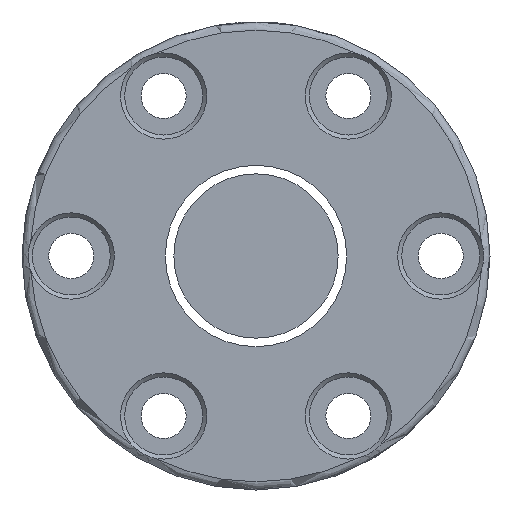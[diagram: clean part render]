
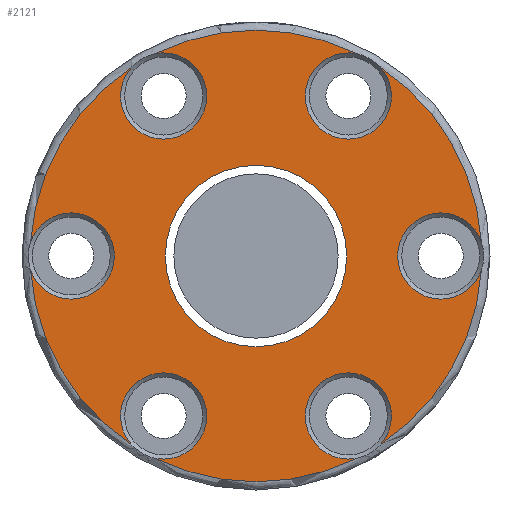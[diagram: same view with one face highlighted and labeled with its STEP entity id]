
A CAD part, left-side view. The second image highlights one B-rep face of the part: STEP entity #2121.
In plain terms, the highlighted planar face has unit normal (-1, 0, 0).
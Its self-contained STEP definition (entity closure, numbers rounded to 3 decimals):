
#8 = CIRCLE ( 'NONE', #173, 5.25 ) ;
#17 = CARTESIAN_POINT ( 'NONE',  ( -51., 0., 0. ) ) ;
#38 = ORIENTED_EDGE ( 'NONE', *, *, #2176, .T. ) ;
#51 = DIRECTION ( 'NONE',  ( 0., -1., 0. ) ) ;
#70 = DIRECTION ( 'NONE',  ( -1., 0., 0. ) ) ;
#71 = ORIENTED_EDGE ( 'NONE', *, *, #1202, .T. ) ;
#88 = CARTESIAN_POINT ( 'NONE',  ( -51., 11.25, -19.486 ) ) ;
#89 = ORIENTED_EDGE ( 'NONE', *, *, #2444, .T. ) ;
#91 = EDGE_CURVE ( 'NONE', #3050, #3050, #1687, .T. ) ;
#115 = VERTEX_POINT ( 'NONE', #3040 ) ;
#129 = ORIENTED_EDGE ( 'NONE', *, *, #91, .T. ) ;
#162 = AXIS2_PLACEMENT_3D ( 'NONE', #714, #534, #242 ) ;
#167 = CARTESIAN_POINT ( 'NONE',  ( -51., 0., 0. ) ) ;
#173 = AXIS2_PLACEMENT_3D ( 'NONE', #290, #2698, #777 ) ;
#233 = CARTESIAN_POINT ( 'NONE',  ( -51., -11.25, -19.486 ) ) ;
#239 = AXIS2_PLACEMENT_3D ( 'NONE', #1635, #656, #1606 ) ;
#242 = DIRECTION ( 'NONE',  ( 0., -1., 0. ) ) ;
#276 = DIRECTION ( 'NONE',  ( 0., -1., 0. ) ) ;
#290 = CARTESIAN_POINT ( 'NONE',  ( -51., -11.25, 19.486 ) ) ;
#301 = AXIS2_PLACEMENT_3D ( 'NONE', #1044, #2752, #2952 ) ;
#315 = CIRCLE ( 'NONE', #1122, 27.5 ) ;
#323 = CARTESIAN_POINT ( 'NONE',  ( -51., -12.19, 24.651 ) ) ;
#388 = ORIENTED_EDGE ( 'NONE', *, *, #2090, .T. ) ;
#448 = ORIENTED_EDGE ( 'NONE', *, *, #962, .T. ) ;
#489 = CIRCLE ( 'NONE', #2135, 5.25 ) ;
#501 = ORIENTED_EDGE ( 'NONE', *, *, #2403, .T. ) ;
#512 = DIRECTION ( 'NONE',  ( -1., 0., 0. ) ) ;
#533 = CARTESIAN_POINT ( 'NONE',  ( -51., 11.25, 19.486 ) ) ;
#534 = DIRECTION ( 'NONE',  ( -1., 0., 0. ) ) ;
#544 = CARTESIAN_POINT ( 'NONE',  ( -51., 28.5, 0. ) ) ;
#565 = CIRCLE ( 'NONE', #2462, 5.25 ) ;
#619 = VERTEX_POINT ( 'NONE', #2944 ) ;
#656 = DIRECTION ( 'NONE',  ( -1., 0., 0. ) ) ;
#662 = AXIS2_PLACEMENT_3D ( 'NONE', #544, #2217, #51 ) ;
#667 = DIRECTION ( 'NONE',  ( 0., 1., 0. ) ) ;
#714 = CARTESIAN_POINT ( 'NONE',  ( -51., 0., 0. ) ) ;
#733 = CARTESIAN_POINT ( 'NONE',  ( -51., 11.05, 0. ) ) ;
#777 = DIRECTION ( 'NONE',  ( 0., -1., 0. ) ) ;
#816 = FACE_OUTER_BOUND ( 'NONE', #2294, .T. ) ;
#852 = VERTEX_POINT ( 'NONE', #1662 ) ;
#872 = CIRCLE ( 'NONE', #2613, 5.25 ) ;
#912 = CIRCLE ( 'NONE', #162, 27.5 ) ;
#943 = VERTEX_POINT ( 'NONE', #2792 ) ;
#962 = EDGE_CURVE ( 'NONE', #2571, #1990, #3084, .T. ) ;
#970 = DIRECTION ( 'NONE',  ( -1., 0., 0. ) ) ;
#1044 = CARTESIAN_POINT ( 'NONE',  ( -51., -22.5, 0. ) ) ;
#1050 = CIRCLE ( 'NONE', #1804, 5.25 ) ;
#1088 = ORIENTED_EDGE ( 'NONE', *, *, #1755, .T. ) ;
#1122 = AXIS2_PLACEMENT_3D ( 'NONE', #2360, #970, #1892 ) ;
#1173 = DIRECTION ( 'NONE',  ( 1., 0., 0. ) ) ;
#1189 = VERTEX_POINT ( 'NONE', #1718 ) ;
#1202 = EDGE_CURVE ( 'NONE', #1990, #943, #489, .T. ) ;
#1228 = DIRECTION ( 'NONE',  ( 0., -1., 0. ) ) ;
#1247 = ORIENTED_EDGE ( 'NONE', *, *, #2634, .T. ) ;
#1268 = ORIENTED_EDGE ( 'NONE', *, *, #2822, .T. ) ;
#1298 = VERTEX_POINT ( 'NONE', #2645 ) ;
#1317 = ORIENTED_EDGE ( 'NONE', *, *, #2733, .T. ) ;
#1406 = CARTESIAN_POINT ( 'NONE',  ( -51., 0., 0. ) ) ;
#1481 = FACE_BOUND ( 'NONE', #2787, .T. ) ;
#1496 = DIRECTION ( 'NONE',  ( 0., -1., 0. ) ) ;
#1555 = VERTEX_POINT ( 'NONE', #2453 ) ;
#1606 = DIRECTION ( 'NONE',  ( 0., -1., 0. ) ) ;
#1628 = DIRECTION ( 'NONE',  ( 1., 0., 0. ) ) ;
#1632 = DIRECTION ( 'NONE',  ( 1., 0., 0. ) ) ;
#1635 = CARTESIAN_POINT ( 'NONE',  ( -51., 0., 0. ) ) ;
#1641 = CARTESIAN_POINT ( 'NONE',  ( -51., 22.5, 0. ) ) ;
#1662 = CARTESIAN_POINT ( 'NONE',  ( -51., 27.443, -1.769 ) ) ;
#1687 = CIRCLE ( 'NONE', #3045, 11.05 ) ;
#1694 = CIRCLE ( 'NONE', #1807, 27.5 ) ;
#1718 = CARTESIAN_POINT ( 'NONE',  ( -51., -27.443, -1.769 ) ) ;
#1749 = CIRCLE ( 'NONE', #3000, 27.5 ) ;
#1755 = EDGE_CURVE ( 'NONE', #619, #1555, #912, .T. ) ;
#1765 = CARTESIAN_POINT ( 'NONE',  ( -51., 0., 0. ) ) ;
#1804 = AXIS2_PLACEMENT_3D ( 'NONE', #88, #2252, #2454 ) ;
#1807 = AXIS2_PLACEMENT_3D ( 'NONE', #1406, #2840, #1228 ) ;
#1858 = AXIS2_PLACEMENT_3D ( 'NONE', #17, #512, #276 ) ;
#1892 = DIRECTION ( 'NONE',  ( 0., -1., 0. ) ) ;
#1972 = DIRECTION ( 'NONE',  ( 0., -1., 0. ) ) ;
#1990 = VERTEX_POINT ( 'NONE', #2148 ) ;
#2042 = VERTEX_POINT ( 'NONE', #2786 ) ;
#2090 = EDGE_CURVE ( 'NONE', #1189, #2157, #3007, .T. ) ;
#2121 = ADVANCED_FACE ( 'NONE', ( #816, #1481 ), #2200, .T. ) ;
#2135 = AXIS2_PLACEMENT_3D ( 'NONE', #533, #2147, #1972 ) ;
#2147 = DIRECTION ( 'NONE',  ( 1., 0., 0. ) ) ;
#2148 = CARTESIAN_POINT ( 'NONE',  ( -51., 12.19, 24.651 ) ) ;
#2157 = VERTEX_POINT ( 'NONE', #2970 ) ;
#2168 = EDGE_CURVE ( 'NONE', #2904, #1189, #1749, .T. ) ;
#2176 = EDGE_CURVE ( 'NONE', #1298, #619, #1050, .T. ) ;
#2200 = PLANE ( 'NONE',  #662 ) ;
#2217 = DIRECTION ( 'NONE',  ( -1., 0., 0. ) ) ;
#2252 = DIRECTION ( 'NONE',  ( 1., 0., 0. ) ) ;
#2294 = EDGE_LOOP ( 'NONE', ( #388, #2503, #1247, #448, #71, #89, #1268, #501, #38, #1088, #1317, #2612 ) ) ;
#2360 = CARTESIAN_POINT ( 'NONE',  ( -51., 0., 0. ) ) ;
#2403 = EDGE_CURVE ( 'NONE', #852, #1298, #2895, .T. ) ;
#2444 = EDGE_CURVE ( 'NONE', #943, #115, #1694, .T. ) ;
#2453 = CARTESIAN_POINT ( 'NONE',  ( -51., -12.19, -24.651 ) ) ;
#2454 = DIRECTION ( 'NONE',  ( 0., -1., 0. ) ) ;
#2462 = AXIS2_PLACEMENT_3D ( 'NONE', #1641, #1628, #2842 ) ;
#2503 = ORIENTED_EDGE ( 'NONE', *, *, #2866, .T. ) ;
#2571 = VERTEX_POINT ( 'NONE', #323 ) ;
#2612 = ORIENTED_EDGE ( 'NONE', *, *, #2168, .T. ) ;
#2613 = AXIS2_PLACEMENT_3D ( 'NONE', #233, #1173, #3080 ) ;
#2634 = EDGE_CURVE ( 'NONE', #2042, #2571, #8, .T. ) ;
#2645 = CARTESIAN_POINT ( 'NONE',  ( -51., 15.253, -22.882 ) ) ;
#2698 = DIRECTION ( 'NONE',  ( 1., 0., 0. ) ) ;
#2733 = EDGE_CURVE ( 'NONE', #1555, #2904, #872, .T. ) ;
#2752 = DIRECTION ( 'NONE',  ( 1., 0., 0. ) ) ;
#2786 = CARTESIAN_POINT ( 'NONE',  ( -51., -15.253, 22.882 ) ) ;
#2787 = EDGE_LOOP ( 'NONE', ( #129 ) ) ;
#2792 = CARTESIAN_POINT ( 'NONE',  ( -51., 15.253, 22.882 ) ) ;
#2822 = EDGE_CURVE ( 'NONE', #115, #852, #565, .T. ) ;
#2840 = DIRECTION ( 'NONE',  ( -1., 0., 0. ) ) ;
#2842 = DIRECTION ( 'NONE',  ( 0., -1., 0. ) ) ;
#2857 = CARTESIAN_POINT ( 'NONE',  ( -51., -15.253, -22.882 ) ) ;
#2866 = EDGE_CURVE ( 'NONE', #2157, #2042, #315, .T. ) ;
#2895 = CIRCLE ( 'NONE', #1858, 27.5 ) ;
#2904 = VERTEX_POINT ( 'NONE', #2857 ) ;
#2944 = CARTESIAN_POINT ( 'NONE',  ( -51., 12.19, -24.651 ) ) ;
#2952 = DIRECTION ( 'NONE',  ( 0., -1., 0. ) ) ;
#2970 = CARTESIAN_POINT ( 'NONE',  ( -51., -27.443, 1.769 ) ) ;
#3000 = AXIS2_PLACEMENT_3D ( 'NONE', #1765, #70, #1496 ) ;
#3007 = CIRCLE ( 'NONE', #301, 5.25 ) ;
#3040 = CARTESIAN_POINT ( 'NONE',  ( -51., 27.443, 1.769 ) ) ;
#3045 = AXIS2_PLACEMENT_3D ( 'NONE', #167, #1632, #667 ) ;
#3050 = VERTEX_POINT ( 'NONE', #733 ) ;
#3080 = DIRECTION ( 'NONE',  ( 0., -1., 0. ) ) ;
#3084 = CIRCLE ( 'NONE', #239, 27.5 ) ;
